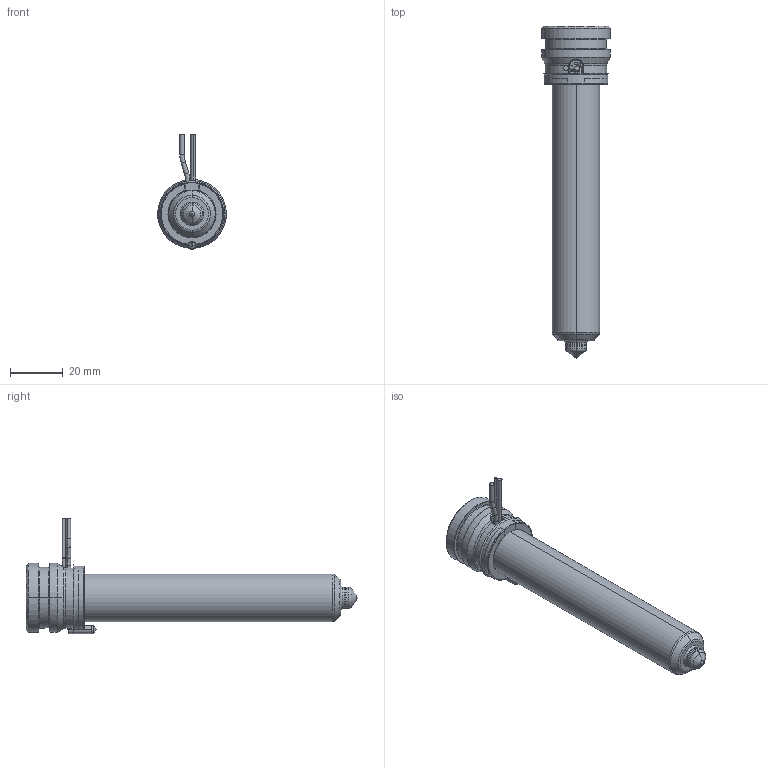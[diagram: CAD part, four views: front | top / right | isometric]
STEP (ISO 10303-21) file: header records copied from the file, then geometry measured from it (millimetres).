
FILE_DESCRIPTION((''),'2;1');
FILE_NAME('MPN-08-24-TX8-106-A','2026-02-05T11:54:40',('UPTIO'),('Thermoplay S.p.A.'),'CREO PARAMETRIC BY PTC INC, 2023494','CREO PARAMETRIC BY PTC INC, 2023494','');
FILE_SCHEMA(('CONFIG_CONTROL_DESIGN','SHAPE_APPEARANCE_LAYERS_GROUPS'));
Length unit declared in the file: millimetre
Products named in the file (1): MPN-08-24-TX8-106-A
Bounding box: 26 x 125.5 x 43.5 mm (x, y, z)
Volume: 24443.4 mm3; surface area: 30959.7 mm2
Topology: 2 solids, 3 shells, 548 faces, 1458 edges, 904 vertices
Faces by surface type: cylinder 180, plane 144, bspline 82, torus 64, cone 60, sphere 12, extrusion 6
Entity records: 29137 total; most frequent: CARTESIAN_POINT 12791, ORIENTED_EDGE 2896, DIRECTION 2574, EDGE_CURVE 1448, AXIS2_PLACEMENT_3D 1006, VERTEX_POINT 904, EDGE_LOOP 576, VECTOR 562
